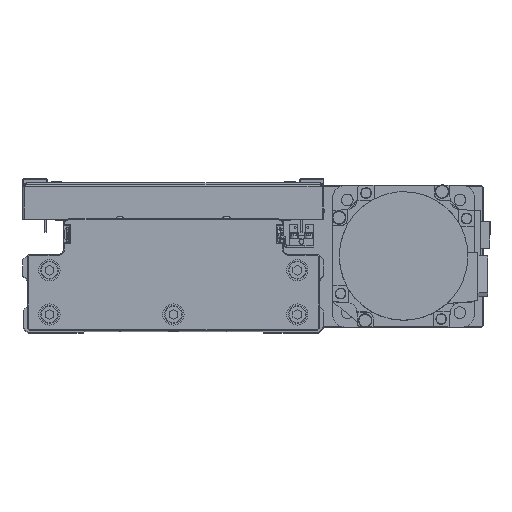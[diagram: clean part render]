
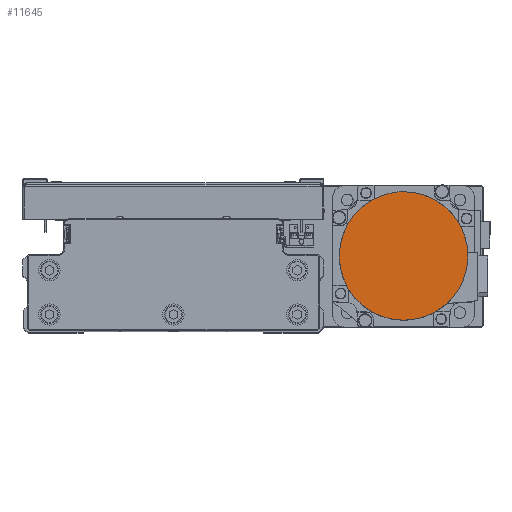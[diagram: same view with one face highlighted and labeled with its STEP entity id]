
A CAD part, top view. The second image highlights one B-rep face of the part: STEP entity #11645.
In plain terms, the highlighted planar face has unit normal (0, 0, 1) as drawn and (0, 0, -1) by its records, which use the part's own axes.
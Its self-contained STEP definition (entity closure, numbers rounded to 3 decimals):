
#179 = ORIENTED_EDGE ( 'NONE', *, *, #19443, .F. ) ;
#1683 = CARTESIAN_POINT ( 'NONE',  ( -36.3, -2.376, -122.2 ) ) ;
#1902 = CARTESIAN_POINT ( 'NONE',  ( -9.412, -35.139, -122.2 ) ) ;
#2466 = CARTESIAN_POINT ( 'NONE',  ( -2.376, 36.3, -122.2 ) ) ;
#2698 = CARTESIAN_POINT ( 'NONE',  ( -35.139, 9.412, -122.2 ) ) ;
#2826 = VERTEX_POINT ( 'NONE', #32825 ) ;
#2840 = DIRECTION ( 'NONE',  ( 0., 0., 1. ) ) ;
#3234 = EDGE_CURVE ( 'NONE', #39576, #18437, #25427, .T. ) ;
#5233 = CARTESIAN_POINT ( 'NONE',  ( -18.192, -31.502, -122.2 ) ) ;
#5777 = ORIENTED_EDGE ( 'NONE', *, *, #40033, .F. ) ;
#6021 = CARTESIAN_POINT ( 'NONE',  ( -31.502, 18.192, -122.2 ) ) ;
#6337 = DIRECTION ( 'NONE',  ( 0., 0., 1. ) ) ;
#7288 = AXIS2_PLACEMENT_3D ( 'NONE', #11806, #25345, #38895 ) ;
#8576 = CARTESIAN_POINT ( 'NONE',  ( -27.348, -23.988, -122.2 ) ) ;
#9360 = CARTESIAN_POINT ( 'NONE',  ( -23.988, 27.348, -122.2 ) ) ;
#10773 = AXIS2_PLACEMENT_3D ( 'NONE', #33263, #2840, #16384 ) ;
#11645 = ADVANCED_FACE ( 'NONE', ( #28680 ), #42218, .F. ) ;
#11806 = CARTESIAN_POINT ( 'NONE',  ( 0., 0., -122.2 ) ) ;
#11908 = CARTESIAN_POINT ( 'NONE',  ( -32.628, -16.086, -122.2 ) ) ;
#12697 = CARTESIAN_POINT ( 'NONE',  ( -16.086, 32.628, -122.2 ) ) ;
#15230 = CARTESIAN_POINT ( 'NONE',  ( -36.066, -4.752, -122.2 ) ) ;
#15453 = CARTESIAN_POINT ( 'NONE',  ( -4.752, -36.066, -122.2 ) ) ;
#16021 = CARTESIAN_POINT ( 'NONE',  ( -4.752, 36.066, -122.2 ) ) ;
#16248 = CARTESIAN_POINT ( 'NONE',  ( -36.066, 4.752, -122.2 ) ) ;
#16384 = DIRECTION ( 'NONE',  ( -1., 0., 0. ) ) ;
#17257 = ORIENTED_EDGE ( 'NONE', *, *, #3234, .F. ) ;
#18437 = VERTEX_POINT ( 'NONE', #25463 ) ;
#18585 = CIRCLE ( 'NONE', #43412, 36.3 ) ;
#18780 = CARTESIAN_POINT ( 'NONE',  ( -16.086, -32.628, -122.2 ) ) ;
#19443 = EDGE_CURVE ( 'NONE', #27618, #39576, #35610, .T. ) ;
#19564 = CARTESIAN_POINT ( 'NONE',  ( -32.628, 16.086, -122.2 ) ) ;
#19880 = DIRECTION ( 'NONE',  ( -1., 0., 0. ) ) ;
#22114 = CARTESIAN_POINT ( 'NONE',  ( -23.988, -27.348, -122.2 ) ) ;
#22903 = CARTESIAN_POINT ( 'NONE',  ( -27.348, 23.988, -122.2 ) ) ;
#25345 = DIRECTION ( 'NONE',  ( 0., 0., 1. ) ) ;
#25427 = B_SPLINE_CURVE_WITH_KNOTS ( 'NONE', 3,
 ( #32109, #1683, #15230, #28773, #42314, #11908, #25450, #38987, #8576, #22114, #35661, #5233, #18780, #32322, #1902, #15453, #29005, #42535 ),
 .UNSPECIFIED., .F., .F.,
 ( 4, 2, 2, 2, 2, 2, 2, 2, 4 ),
 ( 0., 0.125, 0.25, 0.375, 0.5, 0.625, 0.75, 0.875, 1. ),
 .UNSPECIFIED. ) ;
#25450 = CARTESIAN_POINT ( 'NONE',  ( -31.502, -18.192, -122.2 ) ) ;
#25463 = CARTESIAN_POINT ( 'NONE',  ( 0., -36.3, -122.2 ) ) ;
#26234 = CARTESIAN_POINT ( 'NONE',  ( -18.192, 31.502, -122.2 ) ) ;
#27569 = EDGE_LOOP ( 'NONE', ( #5777, #17257, #179, #34975 ) ) ;
#27618 = VERTEX_POINT ( 'NONE', #32461 ) ;
#28680 = FACE_OUTER_BOUND ( 'NONE', #27569, .T. ) ;
#28773 = CARTESIAN_POINT ( 'NONE',  ( -35.139, -9.412, -122.2 ) ) ;
#29005 = CARTESIAN_POINT ( 'NONE',  ( -2.376, -36.3, -122.2 ) ) ;
#29563 = CARTESIAN_POINT ( 'NONE',  ( -9.412, 35.139, -122.2 ) ) ;
#29789 = CARTESIAN_POINT ( 'NONE',  ( -36.3, 2.376, -122.2 ) ) ;
#29910 = CIRCLE ( 'NONE', #10773, 36.3 ) ;
#32109 = CARTESIAN_POINT ( 'NONE',  ( -36.3, 0., -122.2 ) ) ;
#32322 = CARTESIAN_POINT ( 'NONE',  ( -11.696, -34.446, -122.2 ) ) ;
#32461 = CARTESIAN_POINT ( 'NONE',  ( 0., 36.3, -122.2 ) ) ;
#32825 = CARTESIAN_POINT ( 'NONE',  ( 36.3, 0., -122.2 ) ) ;
#32895 = CARTESIAN_POINT ( 'NONE',  ( 0., 36.3, -122.2 ) ) ;
#33112 = CARTESIAN_POINT ( 'NONE',  ( -34.446, 11.696, -122.2 ) ) ;
#33263 = CARTESIAN_POINT ( 'NONE',  ( 0., 0., -122.2 ) ) ;
#34975 = ORIENTED_EDGE ( 'NONE', *, *, #40465, .F. ) ;
#35610 = B_SPLINE_CURVE_WITH_KNOTS ( 'NONE', 3,
 ( #32895, #2466, #16021, #29563, #43104, #12697, #26234, #39779, #9360, #22903, #36442, #6021, #19564, #33112, #2698, #16248, #29789, #43325 ),
 .UNSPECIFIED., .F., .F.,
 ( 4, 2, 2, 2, 2, 2, 2, 2, 4 ),
 ( 0., 0.125, 0.25, 0.375, 0.5, 0.625, 0.75, 0.875, 1. ),
 .UNSPECIFIED. ) ;
#35661 = CARTESIAN_POINT ( 'NONE',  ( -22.143, -28.862, -122.2 ) ) ;
#36442 = CARTESIAN_POINT ( 'NONE',  ( -28.862, 22.143, -122.2 ) ) ;
#36754 = CARTESIAN_POINT ( 'NONE',  ( 0., 0., -122.2 ) ) ;
#38895 = DIRECTION ( 'NONE',  ( 1., 0., 0. ) ) ;
#38924 = CARTESIAN_POINT ( 'NONE',  ( -36.3, 0., -122.2 ) ) ;
#38987 = CARTESIAN_POINT ( 'NONE',  ( -28.862, -22.143, -122.2 ) ) ;
#39576 = VERTEX_POINT ( 'NONE', #38924 ) ;
#39779 = CARTESIAN_POINT ( 'NONE',  ( -22.143, 28.862, -122.2 ) ) ;
#40033 = EDGE_CURVE ( 'NONE', #18437, #2826, #29910, .T. ) ;
#40465 = EDGE_CURVE ( 'NONE', #2826, #27618, #18585, .T. ) ;
#42218 = PLANE ( 'NONE',  #7288 ) ;
#42314 = CARTESIAN_POINT ( 'NONE',  ( -34.446, -11.696, -122.2 ) ) ;
#42535 = CARTESIAN_POINT ( 'NONE',  ( 0., -36.3, -122.2 ) ) ;
#43104 = CARTESIAN_POINT ( 'NONE',  ( -11.696, 34.446, -122.2 ) ) ;
#43325 = CARTESIAN_POINT ( 'NONE',  ( -36.3, 0., -122.2 ) ) ;
#43412 = AXIS2_PLACEMENT_3D ( 'NONE', #36754, #6337, #19880 ) ;
